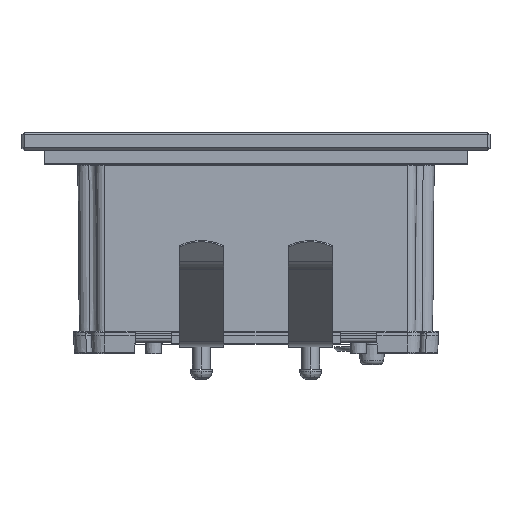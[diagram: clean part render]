
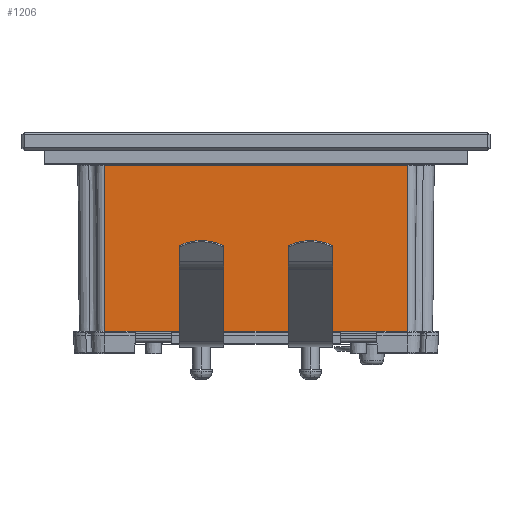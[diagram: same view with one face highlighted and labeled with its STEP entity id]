
A CAD part, top view. The second image highlights one B-rep face of the part: STEP entity #1206.
In plain terms, the highlighted planar face has unit normal (0, -0.009, 1).
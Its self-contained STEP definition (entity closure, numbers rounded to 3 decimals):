
#305=DIRECTION('',(1.,0.,0.));
#306=VECTOR('',#305,68.);
#307=CARTESIAN_POINT('',(-34.,10.203,24.476));
#308=LINE('',#307,#306);
#309=DIRECTION('',(0.,-1.,-0.009));
#310=VECTOR('',#309,37.704);
#311=CARTESIAN_POINT('',(34.,10.203,24.476));
#312=LINE('',#311,#310);
#313=DIRECTION('',(-1.,0.,0.));
#314=VECTOR('',#313,68.);
#315=CARTESIAN_POINT('',(34.,-27.5,24.147));
#316=LINE('',#315,#314);
#317=DIRECTION('',(0.,-1.,-0.009));
#318=VECTOR('',#317,37.704);
#319=CARTESIAN_POINT('',(-34.,10.203,24.476));
#320=LINE('',#319,#318);
#977=CARTESIAN_POINT('',(-34.,-27.5,24.147));
#979=VERTEX_POINT('',#977);
#982=CARTESIAN_POINT('',(34.,-27.5,24.147));
#984=VERTEX_POINT('',#982);
#1025=CARTESIAN_POINT('',(34.,10.203,24.476));
#1027=VERTEX_POINT('',#1025);
#1101=CARTESIAN_POINT('',(-34.,10.203,24.476));
#1102=VERTEX_POINT('',#1101);
#1191=CARTESIAN_POINT('',(-37.12,13.,24.5));
#1192=DIRECTION('',(0.,-0.009,1.));
#1193=DIRECTION('',(1.,0.,0.));
#1194=AXIS2_PLACEMENT_3D('',#1191,#1192,#1193);
#1195=PLANE('',#1194);
#1197=ORIENTED_EDGE('',*,*,#1196,.T.);
#1199=ORIENTED_EDGE('',*,*,#1198,.T.);
#1201=ORIENTED_EDGE('',*,*,#1200,.T.);
#1203=ORIENTED_EDGE('',*,*,#1202,.F.);
#1204=EDGE_LOOP('',(#1197,#1199,#1201,#1203));
#1205=FACE_OUTER_BOUND('',#1204,.F.);
#1206=ADVANCED_FACE('',(#1205),#1195,.T.);
#1196=EDGE_CURVE('',#1102,#1027,#308,.T.);
#1198=EDGE_CURVE('',#1027,#984,#312,.T.);
#1200=EDGE_CURVE('',#984,#979,#316,.T.);
#1202=EDGE_CURVE('',#1102,#979,#320,.T.);
